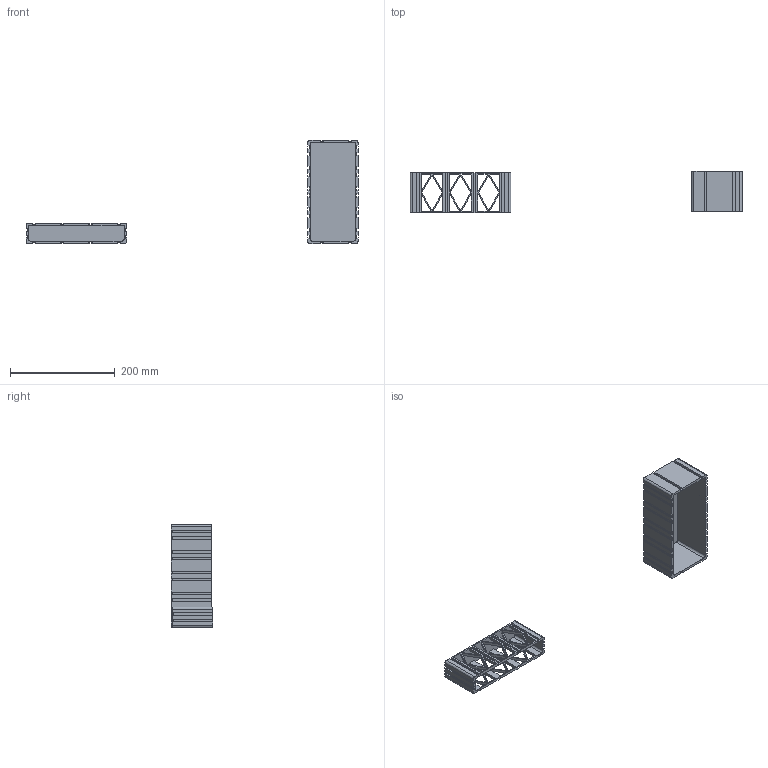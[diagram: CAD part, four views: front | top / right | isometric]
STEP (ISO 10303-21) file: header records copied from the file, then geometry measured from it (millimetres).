
FILE_DESCRIPTION(/* description */ ('STEP AP242','CAx-IF Rec.Pracs.---Representation and Presentation of Product Manufacturing Information (PMI)---4.0---2014-10-13','CAx-IF Rec.Pracs.---3D Tessellated Geometry---0.4---2014-09-14','2;1'),/* implementation_level */ '2;1');
FILE_NAME(/* name */ '645645bca5ed027e9a81c9c6',/* time_stamp */ '2023-05-06T12:19:09Z',/* author */ (''),/* organization */ (''),/* preprocessor_version */ 'ST-DEVELOPER v19.4',/* originating_system */ ' ',/* authorisation */ ' ');
FILE_SCHEMA (('AP242_MANAGED_MODEL_BASED_3D_ENGINEERING_MIM_LF { 1 0 10303 442 1 1 4 }'));
Length unit declared in the file: metre
Products named in the file (2): blank; Vblank
Bounding box: 634.41 x 79 x 197.5 mm (x, y, z)
Volume: 311446 mm3; surface area: 210983.7 mm2
Topology: 2 solids, 2 shells, 262 faces, 804 edges, 536 vertices
Faces by surface type: plane 250, cylinder 12
Entity records: 8979 total; most frequent: ORIENTED_EDGE 1608, CARTESIAN_POINT 1604, DIRECTION 1356, EDGE_CURVE 804, LINE 780, VECTOR 780, VERTEX_POINT 536, EDGE_LOOP 312
